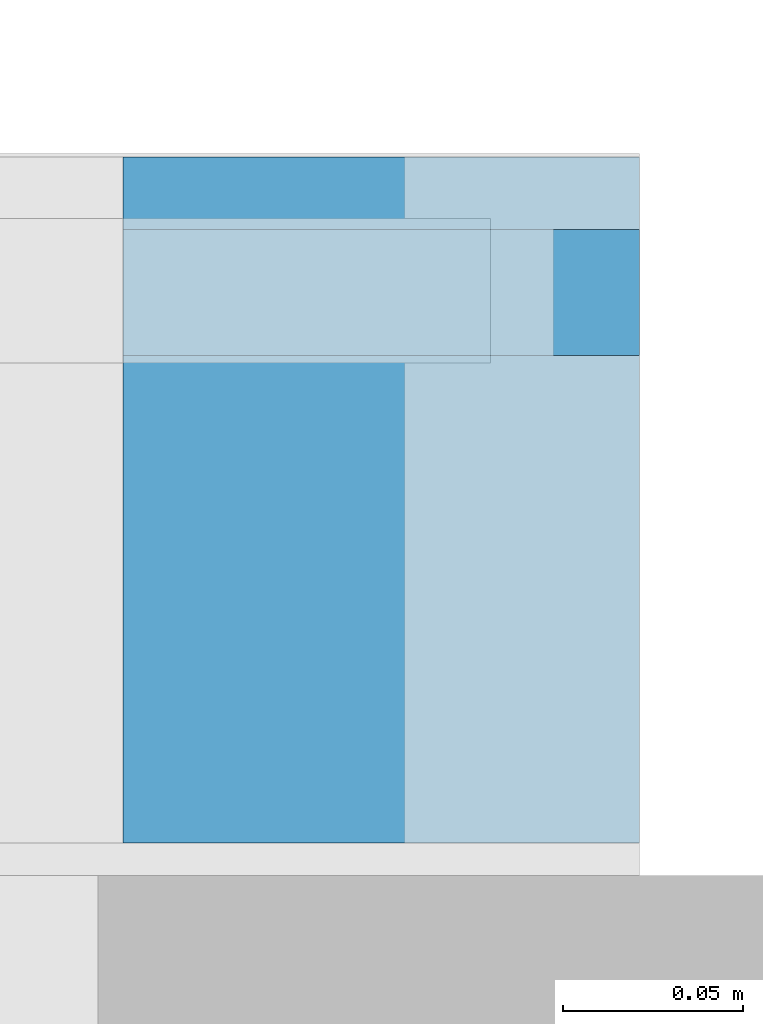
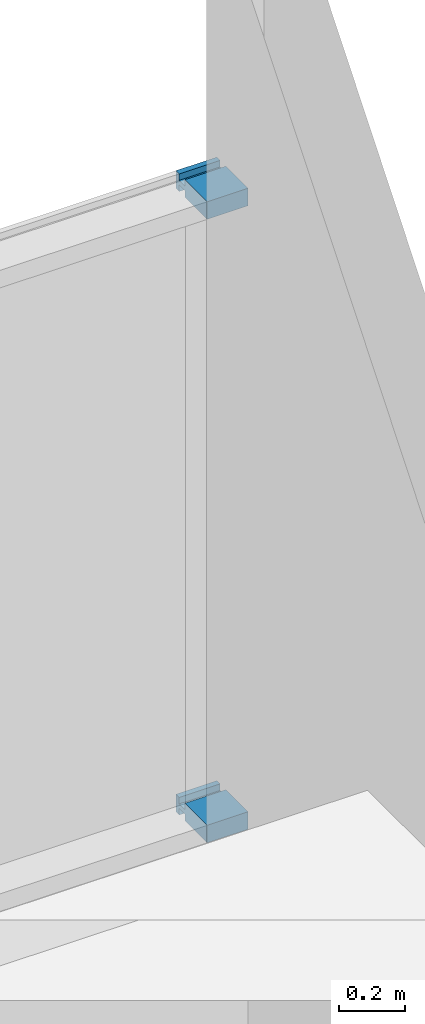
# One storey, part 28 of 106: 2 members, 1 element without a shape of its own.
"""IFC2X3 building model written with IfcOpenShell, lengths in centimetres."""

from ifc_helpers import new_model, entity, si_unit, converted_unit, derived_unit, direction, frame, origin, place, context, subcontext, project, spatial, polyline, outline, extrude, source, transform, mapped, material, type_object, type_shapes, element, aggregate, save


model = new_model("IFC2X3")

# Units and contexts
model_context = context("Model", 3, precision=0.001, world=origin(), true_north=direction((6.12303176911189e-17, 1.0)))
body_context = subcontext(model_context, "Body", "Model", "MODEL_VIEW")
ifc_project = project(units=[si_unit("LENGTHUNIT", "METRE", prefix="CENTI"), si_unit("AREAUNIT", "SQUARE_METRE"), si_unit("VOLUMEUNIT", "CUBIC_METRE"), converted_unit("PLANEANGLEUNIT", "DEGREE", entity("IfcRatioMeasure", 0.0174532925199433), si_unit("PLANEANGLEUNIT", "RADIAN"), dimensions=[0, 0, 0, 0, 0, 0, 0]), si_unit("MASSUNIT", "GRAM", prefix="KILO"), derived_unit("MASSDENSITYUNIT", [(si_unit("MASSUNIT", "GRAM", prefix="KILO"), 1), (si_unit("LENGTHUNIT", "METRE"), -3)]), si_unit("TIMEUNIT", "SECOND"), si_unit("FREQUENCYUNIT", "HERTZ"), si_unit("THERMODYNAMICTEMPERATUREUNIT", "DEGREE_CELSIUS"), derived_unit("THERMALTRANSMITTANCEUNIT", [(si_unit("MASSUNIT", "GRAM", prefix="KILO"), 1), (si_unit("THERMODYNAMICTEMPERATUREUNIT", "KELVIN"), -1), (si_unit("TIMEUNIT", "SECOND"), -3)]), derived_unit("VOLUMETRICFLOWRATEUNIT", [(si_unit("LENGTHUNIT", "METRE"), 3), (si_unit("TIMEUNIT", "SECOND"), -1)]), si_unit("ELECTRICCURRENTUNIT", "AMPERE"), si_unit("ELECTRICVOLTAGEUNIT", "VOLT"), si_unit("POWERUNIT", "WATT"), si_unit("FORCEUNIT", "NEWTON", prefix="KILO"), si_unit("ILLUMINANCEUNIT", "LUX"), si_unit("LUMINOUSFLUXUNIT", "LUMEN"), si_unit("LUMINOUSINTENSITYUNIT", "CANDELA"), derived_unit("USERDEFINED", [(si_unit("MASSUNIT", "GRAM", prefix="KILO"), -1), (si_unit("LENGTHUNIT", "METRE"), -2), (si_unit("TIMEUNIT", "SECOND"), 3), (si_unit("LUMINOUSFLUXUNIT", "LUMEN"), 1)]), derived_unit("LINEARVELOCITYUNIT", [(si_unit("LENGTHUNIT", "METRE"), 1), (si_unit("TIMEUNIT", "SECOND"), -1)]), si_unit("PRESSUREUNIT", "PASCAL"), derived_unit("USERDEFINED", [(si_unit("LENGTHUNIT", "METRE"), -2), (si_unit("MASSUNIT", "GRAM", prefix="KILO"), 1), (si_unit("TIMEUNIT", "SECOND"), -2)])], contexts=[model_context])

# Site, building, storey
site_placement = place(None, frame((-2781.94577612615, 7442.24238424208, 0.0)))
site = spatial("IfcSite", under=ifc_project, at=site_placement, Name="Default", CompositionType="ELEMENT")
building_placement = place(site_placement, origin())
building = spatial("IfcBuilding", under=site, at=building_placement, CompositionType="ELEMENT")
storey_placement = place(building_placement, frame((0.0, 0.0, 422.0)))
storey = spatial("IfcBuildingStorey", under=building, at=storey_placement, Name="Toiture - Cuisine", CompositionType="ELEMENT", Elevation=421.999999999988)

# Curtain wall, members
curtain_wall_type = type_object("IfcCurtainWallType", Name="Mur-rideau:07 - mur rideau trame 140 cm", PredefinedType="NOTDEFINED")
curtain_wall_placement = place(building_placement, origin())
curtain_wall = element("IfcCurtainWall", 1, at=curtain_wall_placement, inside=storey, type_object=curtain_wall_type, Name="Mur-rideau:07 - mur rideau trame 140 cm", ObjectType="Mur-rideau:07 - mur rideau trame 140 cm")
ifc_material = material(Name="Aluminium")
member_type_1 = type_object("IfcMemberType", Name="150 x 25mm Détails", PredefinedType="MEMBER")
shared_shape_1 = source(origin(), body_context, "Body", "SweptSolid", [
    extrude(outline(polyline([(-13.3333333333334, -3.25000000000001), (0.166666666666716, -3.25000000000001), (0.166666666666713, -0.86874999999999), (3.66666666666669, -0.86874999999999), (3.66666666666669, -3.24999999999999), (5.66666666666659, -3.24999999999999), (5.66666666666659, 3.25), (3.66666666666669, 3.25), (3.66666666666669, 0.868749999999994), (0.166666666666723, 0.868749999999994), (0.166666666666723, 3.25000000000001), (-13.3333333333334, 3.24999999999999), (-13.3333333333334, -3.25000000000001)])), frame((-3.24999999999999, 1.96666666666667, -14.3000031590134), z_axis=(0.0, 0.0, 1.0), x_axis=(0.0, -1.0, 0.0)), (0.0, 0.0, 1.0), 14.3000031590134),
])
type_shapes(member_type_1, [shared_shape_1])
member_1_placement = place(building_placement, frame((-394.999879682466, -1073.79999990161, 743.0), z_axis=(1.0, 0.0, 0.0), x_axis=(0.0, 0.0, 1.0)))
member_1 = element("IfcMember", 2, at=member_1_placement, type_object=member_type_1, material=ifc_material, Name="Meneau rectangulaire:150 x 25mm Détails", ObjectType="Meneau rectangulaire:150 x 25mm Détails", context=body_context, shape_type="MappedRepresentation", body=[
    mapped(shared_shape_1, transform((0.0, 0.0, 0.0), scale=1.0)),
])
member_type_2 = type_object("IfcMemberType", Name="150 x 25mm Détails", PredefinedType="MEMBER")
shared_shape_2 = source(origin(), body_context, "Body", "SweptSolid", [
    extrude(outline(polyline([(-13.3333333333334, -3.24999999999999), (0.166666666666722, -3.24999999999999), (0.166666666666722, -0.868749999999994), (3.66666666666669, -0.868749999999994), (3.66666666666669, -3.25), (5.66666666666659, -3.25), (5.66666666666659, 3.24999999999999), (3.66666666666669, 3.24999999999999), (3.66666666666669, 0.86874999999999), (0.166666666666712, 0.86874999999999), (0.166666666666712, 3.25000000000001), (-13.3333333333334, 3.25000000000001), (-13.3333333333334, -3.24999999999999)])), frame((-3.24999999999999, 1.96666666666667, -14.3000031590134), z_axis=(0.0, 0.0, 1.0), x_axis=(0.0, -1.0, 0.0)), (0.0, 0.0, 1.0), 14.3000031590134),
])
type_shapes(member_type_2, [shared_shape_2])
member_2_placement = place(building_placement, frame((-409.299882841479, -1073.79999990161, 505.5), z_axis=(-1.0, 0.0, 0.0), x_axis=(0.0, 0.0, -1.0)))
member_2 = element("IfcMember", 3, at=member_2_placement, type_object=member_type_2, material=ifc_material, Name="Meneau rectangulaire:150 x 25mm Détails", ObjectType="Meneau rectangulaire:150 x 25mm Détails", context=body_context, shape_type="MappedRepresentation", body=[
    mapped(shared_shape_2, transform((0.0, 0.0, 0.0), scale=1.0)),
])
aggregate(curtain_wall, [member_1, member_2])

save(model, "model.ifc")
